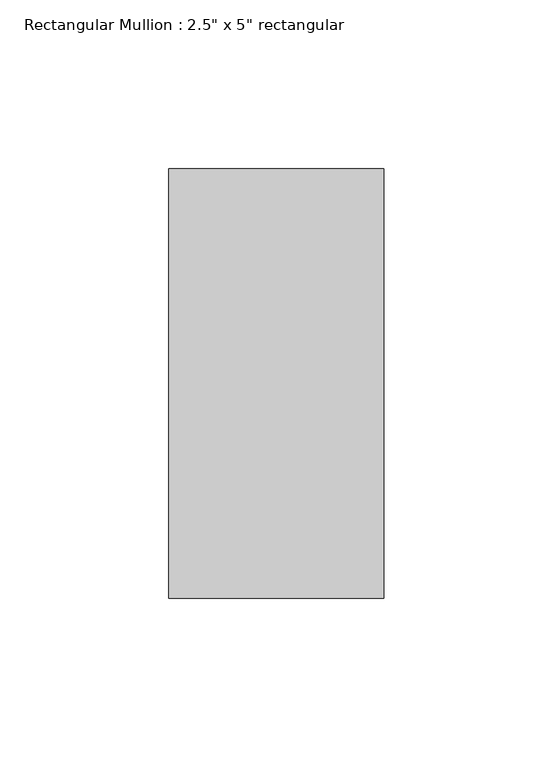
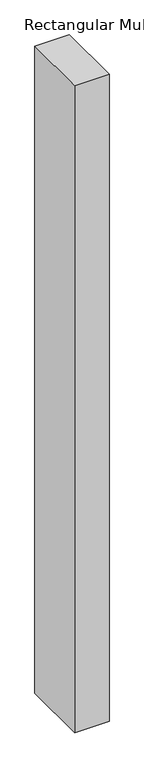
"""IFC4 building model written with IfcOpenShell, lengths in millimetres: member geometry."""

from ifc_helpers import new_model, si_unit, frame, origin, place, context, project, spatial, polyline, outline, extrude, source, transform, mapped, element, save


def member_76223ac8(model_context):
    return source(origin(), model_context, "Body", "SweptSolid", [
        extrude(outline(polyline([(31.75, 63.5), (31.75, -63.5), (-31.75, -63.5), (-31.75, 63.5), (31.75, 63.5)])), frame((0.0, 0.0, -1263.65), z_axis=(0.0, 0.0, 1.0), x_axis=(1.0, 0.0, 0.0)), (0.0, 0.0, 1.0), 1263.65),
    ])


if __name__ == "__main__":
    model = new_model("IFC4")
    model_context = context("Model", 3, world=origin())
    ifc_project = project(units=[si_unit("LENGTHUNIT", "METRE", prefix="MILLI")], contexts=[model_context])
    site = spatial("IfcSite", under=ifc_project)
    building = spatial("IfcBuilding", under=site)
    placement = place(None, origin())
    member_shape = member_76223ac8(model_context)
    element("IfcMember", 1, ObjectType="Rectangular Mullion : 2.5\" x 5\" rectangular", at=placement, inside=building, context=model_context, shape_type="MappedRepresentation", body=[
        mapped(member_shape, transform((0.0, 0.0, 0.0), x_axis=(1.0, 0.0, 0.0), y_axis=(0.0, 1.0, 0.0), z_axis=(0.0, 0.0, 1.0))),
    ])
    save(model, "model.ifc")
